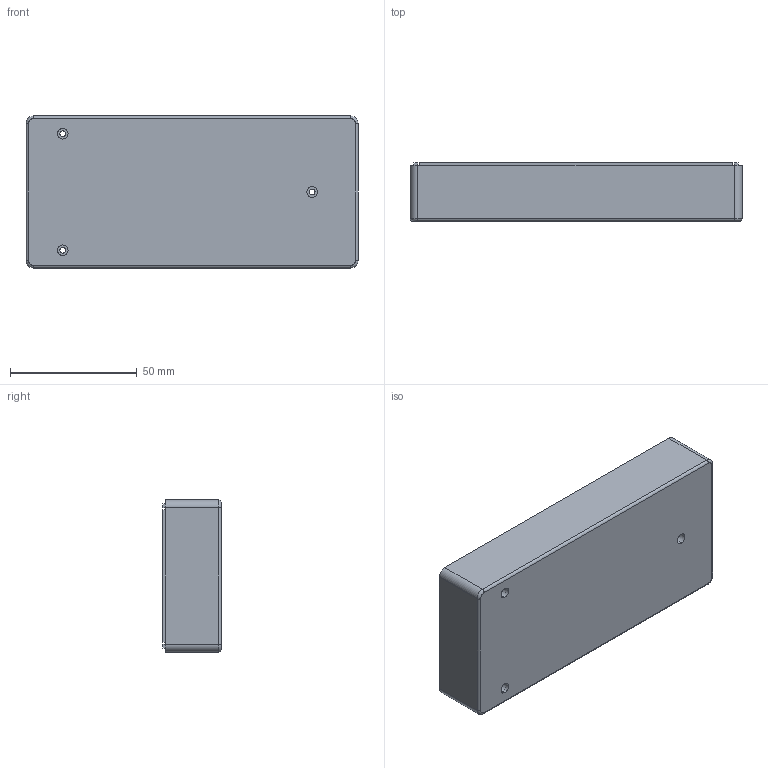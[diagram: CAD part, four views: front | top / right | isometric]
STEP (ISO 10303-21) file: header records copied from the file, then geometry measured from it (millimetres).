
FILE_DESCRIPTION (( 'STEP AP214' ), '1' );
FILE_NAME ('Cuerpo PP8.STEP', '2017-08-03T08:52:26', ( 'aaa' ), ( '' ), 'SwSTEP 2.0', 'SolidWorks 2013', '' );
FILE_SCHEMA (( 'AUTOMOTIVE_DESIGN' ));
Length unit declared in the file: millimetre
Products named in the file (1): Cuerpo PP8
Bounding box: 131 x 23 x 60 mm (x, y, z)
Volume: 35377 mm3; surface area: 32853.7 mm2
Topology: 1 solids, 1 shells, 75 faces, 178 edges, 116 vertices
Faces by surface type: plane 37, cylinder 34, torus 4
Entity records: 2226 total; most frequent: DIRECTION 402, CARTESIAN_POINT 370, ORIENTED_EDGE 356, EDGE_CURVE 178, AXIS2_PLACEMENT_3D 148, VERTEX_POINT 116, VECTOR 106, LINE 106
